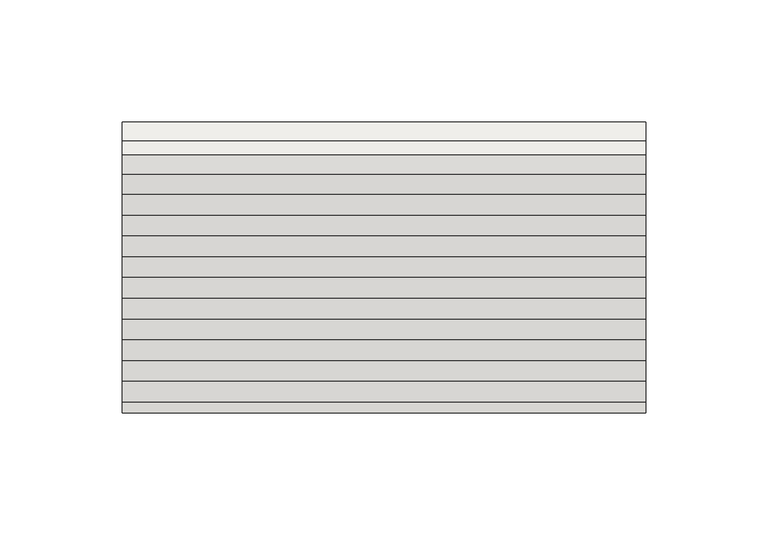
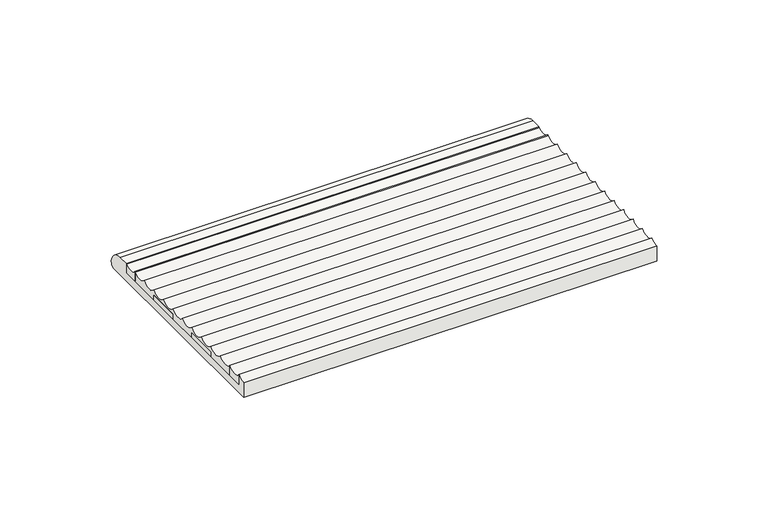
"""IFC4 building model written with IfcOpenShell, lengths in millimetres: slab geometry, ROSA GRES_003 : Pieza 003_Aqua_Marino_Anti-Slip."""

from ifc_helpers import new_model, si_unit, point, frame, frame_2d, origin, place, context, project, spatial, polyline, circle_curve, trimmed, segment, composite_curve, outline, extrude, source, transform, mapped, element, save


def slab_515da62f(model_context):
    return source(origin(), model_context, "Body", "SweptSolid", [
        extrude(outline(composite_curve([segment(trimmed(circle_curve(frame_2d((-7.6419163, 1.7573601)), 7.7398374), [point((-7.6419163, 9.4971975))], [point((0.0, 2.9846331))], False, "CARTESIAN"), True, "CONTINUOUS"), segment(trimmed(circle_curve(frame_2d((-1.9104791, 2.6778148)), 1.9349594), [point((0.0, 2.9846331))], [point((-0.5422562, 1.309592))], False, "CARTESIAN"), True, "CONTINUOUS"), segment(polyline([(-0.5422562, 1.309592), (-1.8518481, 0.0), (-118.9168888, 0.0), (-118.9168888, 8.0603545)]), True, "CONTINUOUS"), segment(trimmed(circle_curve(frame_2d((-118.9168888, 13.6516438)), 5.5912893), [point((-118.9168888, 8.0603545))], [point((-114.6668888, 10.0184612))], True, "CARTESIAN"), True, "CONTINUOUS"), segment(polyline([(-114.6668888, 10.0184612), (-114.6668888, 4.0921512), (-13.1748183, 4.0921512), (-13.1748183, 9.4971975), (-7.6419163, 9.4971975)]), True, "CONTINUOUS")], self_intersect=False)), frame((0.0, 0.0, 0.0), z_axis=(1.0, 0.0, 0.0), x_axis=(0.0, 1.0, 0.0)), (0.0, 0.0, 1.0), 214.1117862),
        extrude(outline(composite_curve([segment(polyline([(-106.1668888, 10.0184612), (-106.1668888, 4.0921512), (-114.6668888, 4.0921512), (-114.6668888, 10.0184612)]), True, "CONTINUOUS"), segment(trimmed(circle_curve(frame_2d((-110.4168888, 13.6516438)), 5.5912893), [point((-114.6668888, 10.0184612))], [point((-106.1668888, 10.0184612))], True, "CARTESIAN"), True, "CONTINUOUS")], self_intersect=False)), frame((0.0, 0.0, 0.0), z_axis=(1.0, 0.0, 0.0), x_axis=(0.0, 1.0, 0.0)), (0.0, 0.0, 1.0), 214.1117862),
        extrude(outline(polyline([(214.1117862, -89.1668888), (0.0, -89.1668888), (0.0, -72.1668888), (214.1117862, -72.1668888), (214.1117862, -89.1668888)])), frame((0.0, 0.0, 4.0921512), z_axis=(0.0, 0.0, 1.0), x_axis=(1.0, 0.0, 0.0)), (0.0, 0.0, 1.0), 2.92631),
        extrude(outline(polyline([(214.1117862, -55.1668888), (0.0, -55.1668888), (0.0, -38.1668888), (214.1117862, -38.1668888), (214.1117862, -55.1668888)])), frame((0.0, 0.0, 4.0921512), z_axis=(0.0, 0.0, 1.0), x_axis=(1.0, 0.0, 0.0)), (0.0, 0.0, 1.0), 2.92631),
        extrude(outline(composite_curve([segment(polyline([(-13.1748183, 9.4971975), (-13.1748183, 4.0921512), (-21.1668888, 4.0921512), (-21.1668888, 10.0184612)]), True, "CONTINUOUS"), segment(trimmed(circle_curve(frame_2d((-16.9168888, 13.6516438)), 5.5912893), [point((-21.1668888, 10.0184612))], [point((-13.1748183, 9.4971975))], True, "CARTESIAN"), True, "CONTINUOUS")], self_intersect=False)), frame((0.0, 0.0, 0.0), z_axis=(1.0, 0.0, 0.0), x_axis=(0.0, 1.0, 0.0)), (0.0, 0.0, 1.0), 214.1117862),
        extrude(outline(composite_curve([segment(polyline([(-21.1668888, 10.0221512), (-21.1668888, 4.0921512), (-38.1668888, 4.0921512), (-38.1668888, 7.0184612), (-55.1668888, 7.0184612), (-55.1668888, 4.0921512), (-72.1668888, 4.0921512), (-72.1668888, 7.0184612), (-89.1668888, 7.0184612), (-89.1668888, 4.0921512), (-106.1668888, 4.0921512), (-106.1668888, 10.0221512)]), True, "CONTINUOUS"), segment(trimmed(circle_curve(frame_2d((-101.9168888, 13.6553338)), 5.5912893), [point((-106.1668888, 10.0221512))], [point((-97.6668888, 10.0221512))], True, "CARTESIAN"), True, "CONTINUOUS"), segment(trimmed(circle_curve(frame_2d((-93.4168888, 13.6553338)), 5.5912893), [point((-97.6668888, 10.0221512))], [point((-89.1668888, 10.0221512))], True, "CARTESIAN"), True, "CONTINUOUS"), segment(trimmed(circle_curve(frame_2d((-84.9168888, 13.6553338)), 5.5912893), [point((-89.1668888, 10.0221512))], [point((-80.6668888, 10.0221512))], True, "CARTESIAN"), True, "CONTINUOUS"), segment(trimmed(circle_curve(frame_2d((-76.4168888, 13.6553338)), 5.5912893), [point((-80.6668888, 10.0221512))], [point((-72.1668888, 10.0221512))], True, "CARTESIAN"), True, "CONTINUOUS"), segment(trimmed(circle_curve(frame_2d((-67.9168888, 13.6553338)), 5.5912893), [point((-72.1668888, 10.0221512))], [point((-63.6668888, 10.0221512))], True, "CARTESIAN"), True, "CONTINUOUS"), segment(trimmed(circle_curve(frame_2d((-59.4168888, 13.6553338)), 5.5912893), [point((-63.6668888, 10.0221512))], [point((-55.1668888, 10.0221512))], True, "CARTESIAN"), True, "CONTINUOUS"), segment(trimmed(circle_curve(frame_2d((-50.9168888, 13.6553338)), 5.5912893), [point((-55.1668888, 10.0221512))], [point((-46.6668888, 10.0221512))], True, "CARTESIAN"), True, "CONTINUOUS"), segment(trimmed(circle_curve(frame_2d((-42.4168888, 13.6553338)), 5.5912893), [point((-46.6668888, 10.0221512))], [point((-38.1668888, 10.0221512))], True, "CARTESIAN"), True, "CONTINUOUS"), segment(trimmed(circle_curve(frame_2d((-33.9168888, 13.6553338)), 5.5912893), [point((-38.1668888, 10.0221512))], [point((-29.6668888, 10.0221512))], True, "CARTESIAN"), True, "CONTINUOUS"), segment(trimmed(circle_curve(frame_2d((-25.4168888, 13.6553338)), 5.5912893), [point((-29.6668888, 10.0221512))], [point((-21.1668888, 10.0221512))], True, "CARTESIAN"), True, "CONTINUOUS")], self_intersect=False)), frame((0.0, 0.0, 0.0), z_axis=(1.0, 0.0, 0.0), x_axis=(0.0, 1.0, 0.0)), (0.0, 0.0, 1.0), 214.1117862),
    ])


if __name__ == "__main__":
    model = new_model("IFC4")
    model_context = context("Model", 3, world=origin())
    ifc_project = project(units=[si_unit("LENGTHUNIT", "METRE", prefix="MILLI")], contexts=[model_context])
    site = spatial("IfcSite", under=ifc_project)
    building = spatial("IfcBuilding", under=site)
    placement = place(None, origin())
    slab_shape = slab_515da62f(model_context)
    element("IfcSlab", 1, ObjectType="ROSA GRES_003 : Pieza 003_Aqua_Marino_Anti-Slip", at=placement, inside=building, context=model_context, shape_type="MappedRepresentation", body=[
        mapped(slab_shape, transform((0.0, 0.0, 0.0), x_axis=(1.0, 0.0, 0.0), y_axis=(0.0, 1.0, 0.0), z_axis=(0.0, 0.0, 1.0))),
    ])
    save(model, "model.ifc")
